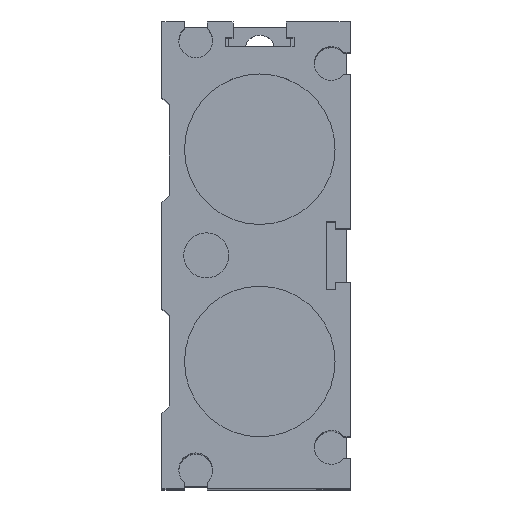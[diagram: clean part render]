
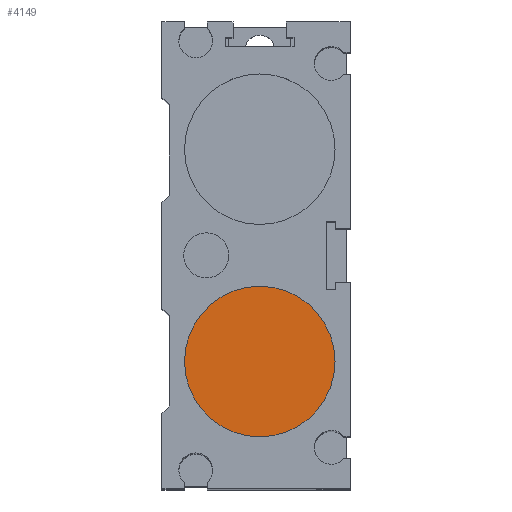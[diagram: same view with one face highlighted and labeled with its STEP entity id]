
A CAD part, top view. The second image highlights one B-rep face of the part: STEP entity #4149.
In plain terms, the highlighted planar face has unit normal (0, 0, 1).
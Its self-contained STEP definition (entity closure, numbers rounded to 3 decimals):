
#4126=CARTESIAN_POINT('',(10.0,-14.1,153.0));
#4127=VERTEX_POINT('',#4126);
#4128=CARTESIAN_POINT('',(0.0,-14.1,153.0));
#4129=DIRECTION('',(0.0,0.0,1.0));
#4130=DIRECTION('',(-1.0,0.0,0.0));
#4131=AXIS2_PLACEMENT_3D('',#4128,#4129,#4130);
#4132=CIRCLE('',#4131,10.0);
#4133=EDGE_CURVE('',#4127,#4127,#4132,.T.);
#4141=CARTESIAN_POINT('',(0.0,-14.1,153.0));
#4142=DIRECTION('',(0.0,0.0,-1.0));
#4143=DIRECTION('',(-1.0,0.0,0.0));
#4144=AXIS2_PLACEMENT_3D('',#4141,#4142,#4143);
#4145=PLANE('',#4144);
#4146=ORIENTED_EDGE('',*,*,#4133,.T.);
#4147=EDGE_LOOP('',(#4146));
#4148=FACE_OUTER_BOUND('',#4147,.T.);
#4149=ADVANCED_FACE('',(#4148),#4145,.F.);
